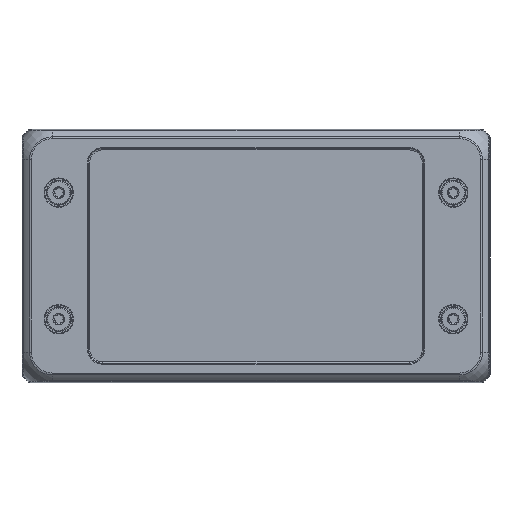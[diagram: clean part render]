
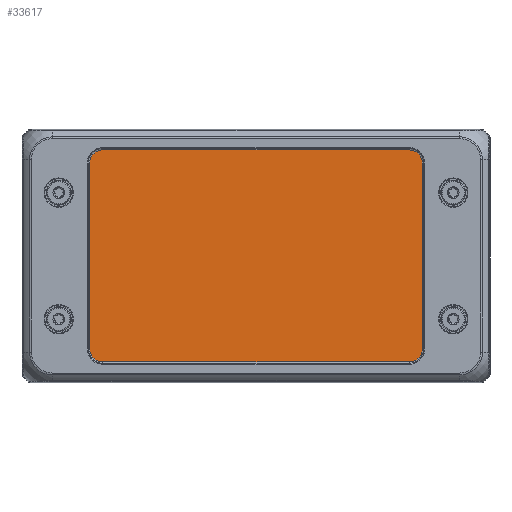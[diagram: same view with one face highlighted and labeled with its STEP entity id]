
A CAD part, top view. The second image highlights one B-rep face of the part: STEP entity #33617.
In plain terms, the highlighted planar face has unit normal (0, 0, 1).
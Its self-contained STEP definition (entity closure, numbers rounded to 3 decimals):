
#2875=PLANE('',#36541);
#3211=ELLIPSE('',#36520,4.501,4.5);
#3213=ELLIPSE('',#36525,4.501,4.5);
#3215=ELLIPSE('',#36530,4.501,4.5);
#3216=ELLIPSE('',#36533,4.501,4.5);
#5047=FACE_OUTER_BOUND('',#7232,.T.);
#7232=EDGE_LOOP('',(#29414,#29415,#29416,#29417,#29418,#29419,#29420,#29421));
#9685=LINE('',#95068,#12033);
#9688=LINE('',#95112,#12036);
#9690=LINE('',#95153,#12038);
#9692=LINE('',#95194,#12040);
#12033=VECTOR('',#44373,10.);
#12036=VECTOR('',#44388,10.);
#12038=VECTOR('',#44400,10.);
#12040=VECTOR('',#44412,10.);
#15745=VERTEX_POINT('',#95065);
#15746=VERTEX_POINT('',#95067);
#15748=VERTEX_POINT('',#95102);
#15750=VERTEX_POINT('',#95108);
#15752=VERTEX_POINT('',#95143);
#15754=VERTEX_POINT('',#95149);
#15756=VERTEX_POINT('',#95184);
#15758=VERTEX_POINT('',#95190);
#20331=EDGE_CURVE('',#15745,#15746,#9685,.T.);
#20336=EDGE_CURVE('',#15746,#15748,#3211,.T.);
#20339=EDGE_CURVE('',#15748,#15750,#9688,.T.);
#20342=EDGE_CURVE('',#15750,#15752,#3213,.T.);
#20345=EDGE_CURVE('',#15752,#15754,#9690,.T.);
#20348=EDGE_CURVE('',#15754,#15756,#3215,.T.);
#20351=EDGE_CURVE('',#15756,#15758,#9692,.T.);
#20352=EDGE_CURVE('',#15758,#15745,#3216,.T.);
#29414=ORIENTED_EDGE('',*,*,#20331,.F.);
#29415=ORIENTED_EDGE('',*,*,#20352,.F.);
#29416=ORIENTED_EDGE('',*,*,#20351,.F.);
#29417=ORIENTED_EDGE('',*,*,#20348,.F.);
#29418=ORIENTED_EDGE('',*,*,#20345,.F.);
#29419=ORIENTED_EDGE('',*,*,#20342,.F.);
#29420=ORIENTED_EDGE('',*,*,#20339,.F.);
#29421=ORIENTED_EDGE('',*,*,#20336,.F.);
#33617=ADVANCED_FACE('',(#5047),#2875,.F.);
#36520=AXIS2_PLACEMENT_3D('',#95106,#44381,#44382);
#36525=AXIS2_PLACEMENT_3D('',#95147,#44393,#44394);
#36530=AXIS2_PLACEMENT_3D('',#95188,#44405,#44406);
#36533=AXIS2_PLACEMENT_3D('',#95225,#44413,#44414);
#36541=AXIS2_PLACEMENT_3D('',#95245,#44436,#44437);
#44373=DIRECTION('',(-1.,0.,0.));
#44381=DIRECTION('center_axis',(0.,0.,-1.));
#44382=DIRECTION('ref_axis',(-0.707,-0.707,0.));
#44388=DIRECTION('',(0.,1.,0.));
#44393=DIRECTION('center_axis',(0.,0.,-1.));
#44394=DIRECTION('ref_axis',(-0.707,0.707,0.));
#44400=DIRECTION('',(1.,0.,0.));
#44405=DIRECTION('center_axis',(0.,0.,-1.));
#44406=DIRECTION('ref_axis',(0.707,0.707,0.));
#44412=DIRECTION('',(0.,-1.,0.));
#44413=DIRECTION('center_axis',(0.,0.,-1.));
#44414=DIRECTION('ref_axis',(0.707,-0.707,0.));
#44436=DIRECTION('center_axis',(0.,0.,-1.));
#44437=DIRECTION('ref_axis',(-1.,0.,0.));
#95065=CARTESIAN_POINT('',(52.009,-36.009,18.));
#95067=CARTESIAN_POINT('',(-52.009,-36.009,18.));
#95068=CARTESIAN_POINT('',(28.5,-36.009,18.));
#95102=CARTESIAN_POINT('',(-56.509,-31.509,18.));
#95106=CARTESIAN_POINT('Origin',(-52.008,-31.508,18.));
#95108=CARTESIAN_POINT('',(-56.509,31.509,18.));
#95112=CARTESIAN_POINT('',(-56.509,-18.25,18.));
#95143=CARTESIAN_POINT('',(-52.009,36.009,18.));
#95147=CARTESIAN_POINT('Origin',(-52.008,31.508,18.));
#95149=CARTESIAN_POINT('',(52.009,36.009,18.));
#95153=CARTESIAN_POINT('',(-28.5,36.009,18.));
#95184=CARTESIAN_POINT('',(56.509,31.509,18.));
#95188=CARTESIAN_POINT('Origin',(52.008,31.508,18.));
#95190=CARTESIAN_POINT('',(56.509,-31.509,18.));
#95194=CARTESIAN_POINT('',(56.509,18.25,18.));
#95225=CARTESIAN_POINT('Origin',(52.008,-31.508,18.));
#95245=CARTESIAN_POINT('Origin',(0.,0.,18.));
